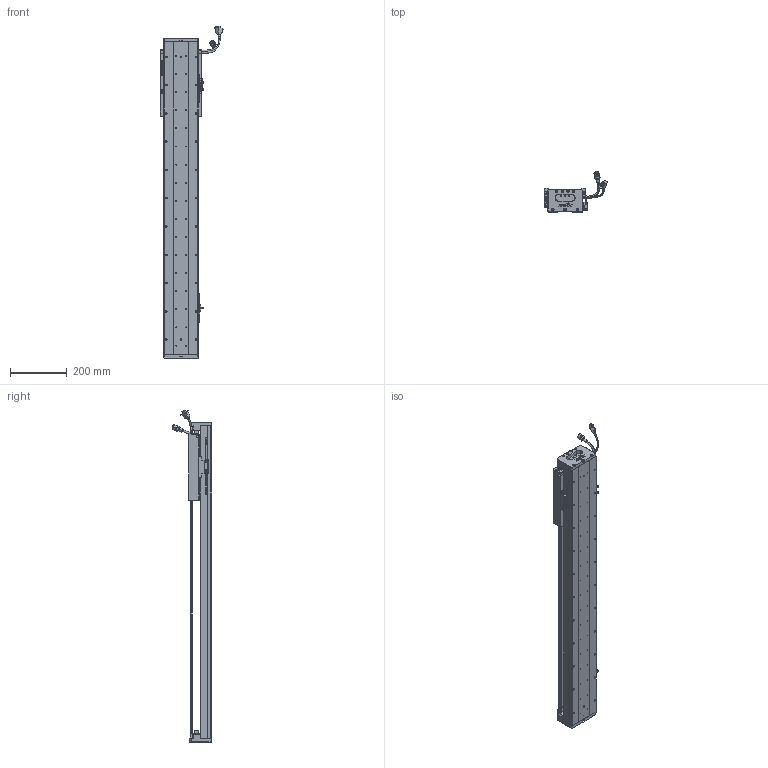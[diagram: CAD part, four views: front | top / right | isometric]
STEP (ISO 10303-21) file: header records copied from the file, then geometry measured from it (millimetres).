
FILE_DESCRIPTION (( 'STEP AP203' ), '1' );
FILE_NAME ('Z3-RY120D-1-L500-B-K.SLDASM_0800.step', '2021-05-17T05:46:31', ( '盈信电脑' ), ( '东莞市道滘镇水果街19号' ), 'SwSTEP 2.0', 'SolidWorks 2016', '' );
FILE_SCHEMA (( 'CONFIG_CONTROL_DESIGN' ));
Length unit declared in the file: millimetre
Products named in the file (37): COVER-Part-1; Z-RY120D詩湍奻揤裔; 榋妏寠巭燃_暯_M2_2; PSLH080_PSLF2; PBU_SHEET; SCREW-M1.7-1; SCALE-Part-1; HARNESS-Part-2; SCALE-Part-2; SCREW-M1.6-2; SCALE; 140雄赽晤鎢ん堤盄; 080黍杅芛假蚾釱21遴; Z3-RY120-L500詩湍100mm遵_0800; Z3-RY120铝滑块（21款）; SHIELDPLATE; SEAL; SCREW-M1.6-3; 覜茼ん672; COVER; Z3-RY120-500-倰第菁釱_0800; 672嫖萇羲壽假蚾釱; Z3-RY120D-1-L500-B-K.SLDASM_0800; Z-120詩湍傷裔啣; SEAL-Part-1; RY100FB-遵嫖萇覜茼え; LABEL-Part-1; 120-Z-臏賑輸盄裔(21遴); SCREW-M1.6; HARNESS-Part-1; SCREW-M1.6-1; 140蚥薯蝶輸; HARNESS; LABEL; Z-RY120D詩湍狟揤裔; HOLDER0; SCREW-M1.7
Assembly tree (43 placements, depth 4):
  Z3-RY120D-1-L500-B-K.SLDASM_0800
    Z3-RY120-500-倰第菁釱_0800
    覜茼ん672  x3
    672嫖萇羲壽假蚾釱  x2
    Z3-RY120铝滑块（21款）
    PSLH080_PSLF2
      SCALE
        SCALE-Part-1
        SCALE-Part-2
      HARNESS
        HARNESS-Part-1
        HARNESS-Part-2
      LABEL
        LABEL-Part-1
      COVER
        COVER-Part-1
      SEAL
        SEAL-Part-1
      榋妏寠巭燃_暯_M2_2
      SHIELDPLATE
      SCREW-M1.7
      SCREW-M1.7-1
      PBU_SHEET
      SCREW-M1.6
      SCREW-M1.6-1
      SCREW-M1.6-2
      SCREW-M1.6-3
      HOLDER0
    080黍杅芛假蚾釱21遴
    120-Z-臏賑輸盄裔(21遴)
    140雄赽晤鎢ん堤盄
    140蚥薯蝶輸  x2
    RY100FB-遵嫖萇覜茼え
    Z-120詩湍傷裔啣  x2
    Z-RY120D詩湍奻揤裔  x2
    Z-RY120D詩湍狟揤裔  x2
    Z3-RY120-L500詩湍100mm遵_0800
Bounding box: 222.87 x 140.94 x 1174 mm (x, y, z)
Volume: 3266959.6 mm3; surface area: 1089784.1 mm2
Topology: 38 solids, 38 shells, 2861 faces, 7759 edges, 4898 vertices
Faces by surface type: cylinder 1325, plane 1128, cone 286, torus 69, bspline 53
Entity records: 86670 total; most frequent: CARTESIAN_POINT 23387, ORIENTED_EDGE 12470, DIRECTION 12199, EDGE_CURVE 6235, AXIS2_PLACEMENT_3D 4468, VERTEX_POINT 4018, VECTOR 3263, LINE 3263
